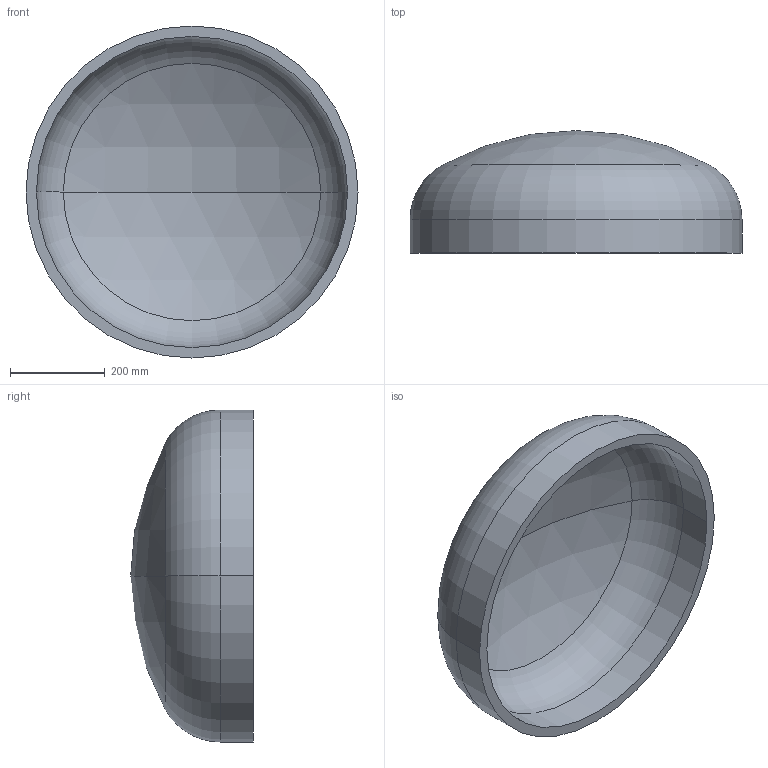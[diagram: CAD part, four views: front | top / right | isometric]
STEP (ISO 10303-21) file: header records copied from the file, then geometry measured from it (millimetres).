
FILE_DESCRIPTION (( 'STEP AP203' ), '1' );
FILE_NAME ('DIN 28013 Korbbogenform_-_Boden DIN 28013 - 700 x 70 - I - s=22.step', '2016-07-01T08:05:29', ( '' ), ( '' ), 'SwSTEP 2.0', 'SolidWorks 2013', '' );
FILE_SCHEMA (( 'CONFIG_CONTROL_DESIGN' ));
Length unit declared in the file: millimetre
Products named in the file (1): DIN 28013 Korbbogenform_-_Boden DIN 28013 - 700 x 70 - I - s=22
Bounding box: 700 x 258.33 x 700 mm (x, y, z)
Volume: 14581350.4 mm3; surface area: 1373450.6 mm2
Topology: 1 solids, 1 shells, 13 faces, 24 edges, 14 vertices
Faces by surface type: torus 4, cylinder 4, sphere 4, plane 1
Entity records: 407 total; most frequent: DIRECTION 72, CARTESIAN_POINT 52, ORIENTED_EDGE 48, AXIS2_PLACEMENT_3D 34, EDGE_CURVE 24, CIRCLE 20, EDGE_LOOP 14, VERTEX_POINT 14
